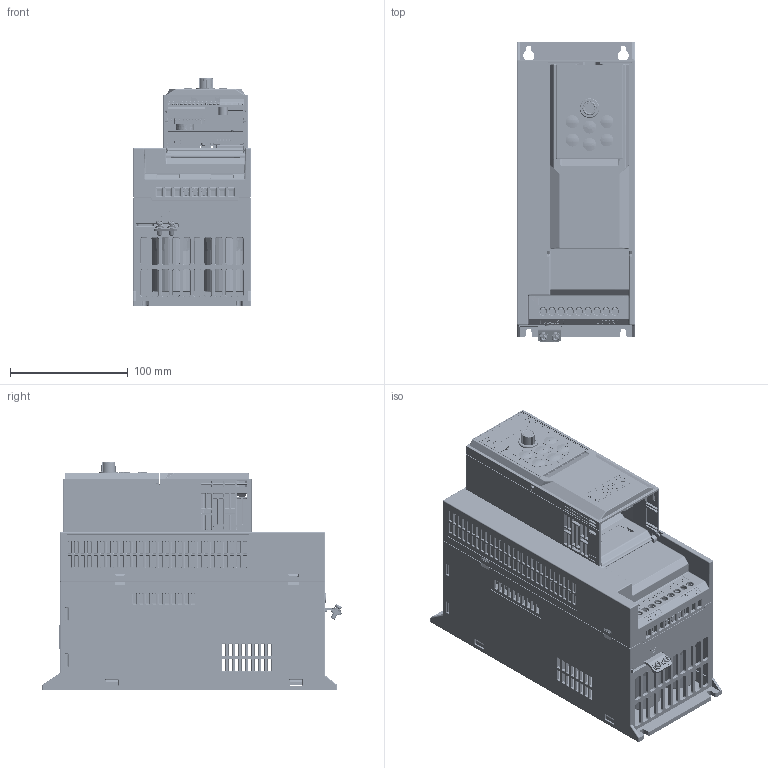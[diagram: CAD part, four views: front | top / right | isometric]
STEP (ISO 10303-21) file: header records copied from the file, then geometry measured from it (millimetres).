
FILE_DESCRIPTION((''),'2;1');
FILE_NAME('AD800P-D3-DRIVE_ASM','2025-06-24T16:25:24',('wendong.luo'),(''),'CREO PARAMETRIC BY PTC INC, 2024374','CREO PARAMETRIC BY PTC INC, 2024374','');
FILE_SCHEMA(('CONFIG_CONTROL_DESIGN','GEOMETRIC_VALIDATION_PROPERTIES_MIM'));
Products named in the file (35): D3_MECHANICAL_PART; E0200003; E0400127; E0400017; M0202003; D3-PU_ASM; M0104151; E0100736; E0400142; E0400150; E0400073; E0400023; E0100738_ASM; E0200416; M0104143; E0100735; E0400035; E0400118; E0400011; E0100737_ASM; M0104016; M0104018; E0100102; E0200191; E0200192; E0100102_ASM; M0104017; M0203163; EXTERNAL_KEYPAD_ASM; M0203158; M0203159; M0104150; M0203053; CU0P-ASSY_ASM; AD800P-D3-DRIVE_ASM
Assembly tree (40 placements, depth 5):
  AD800P-D3-DRIVE_ASM
    D3-PU_ASM
      D3_MECHANICAL_PART
      E0200003  x2
      E0400127
      E0400017
      M0202003  x2
    CU0P-ASSY_ASM
      M0104151
      E0100738_ASM
        E0100736
        E0400142
        E0400150
        E0400073  x2
        E0400023
      E0200416
      M0104143
      E0100737_ASM
        E0100735
        E0400035
        E0400118
        E0400023
        E0400011
      EXTERNAL_KEYPAD_ASM
        M0104016
        M0104018
        E0100102_ASM
          E0100102
          E0200191
          E0200192
          E0400035
          E0400011
        M0104017
        M0203163
      M0203158
      M0203159
      M0104150
      M0203053
Bounding box: 100 x 254.08 x 193.6 mm (x, y, z)
Volume: 1917633.4 mm3; surface area: 561229.4 mm2
Topology: 59 solids, 117 shells, 21874 faces, 57198 edges, 36327 vertices
Faces by surface type: plane 10691, cylinder 5488, bspline 2415, extrusion 1755, cone 944, torus 440, sphere 141
Entity records: 938711 total; most frequent: CARTESIAN_POINT 284525, ORIENTED_EDGE 104482, DIRECTION 82832, EDGE_CURVE 52385, PRESENTATION_STYLE_ASSIGNMENT 51841, STYLED_ITEM 50173, CURVE_STYLE 45799, VERTEX_POINT 33265
